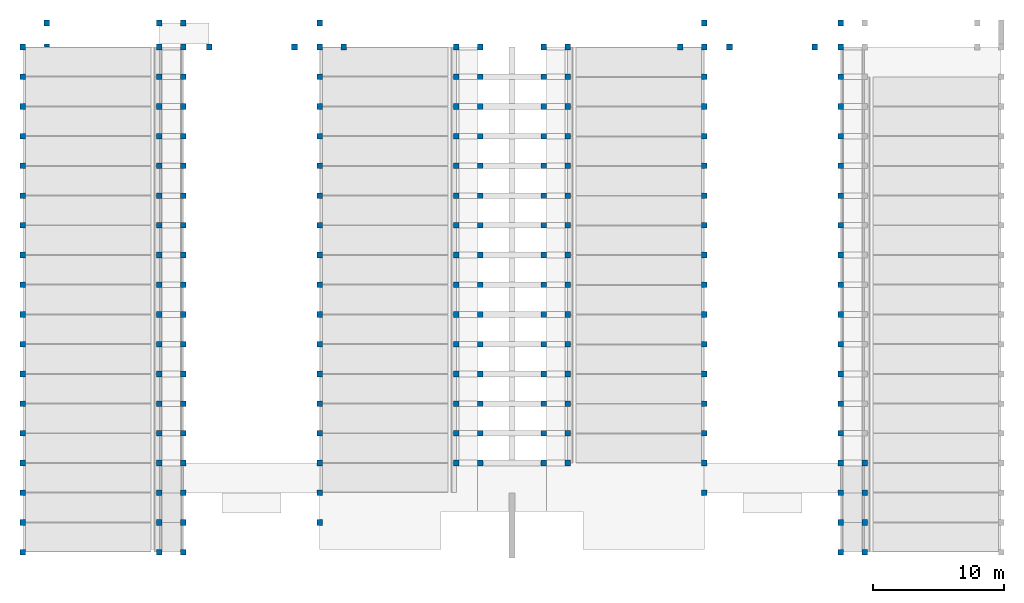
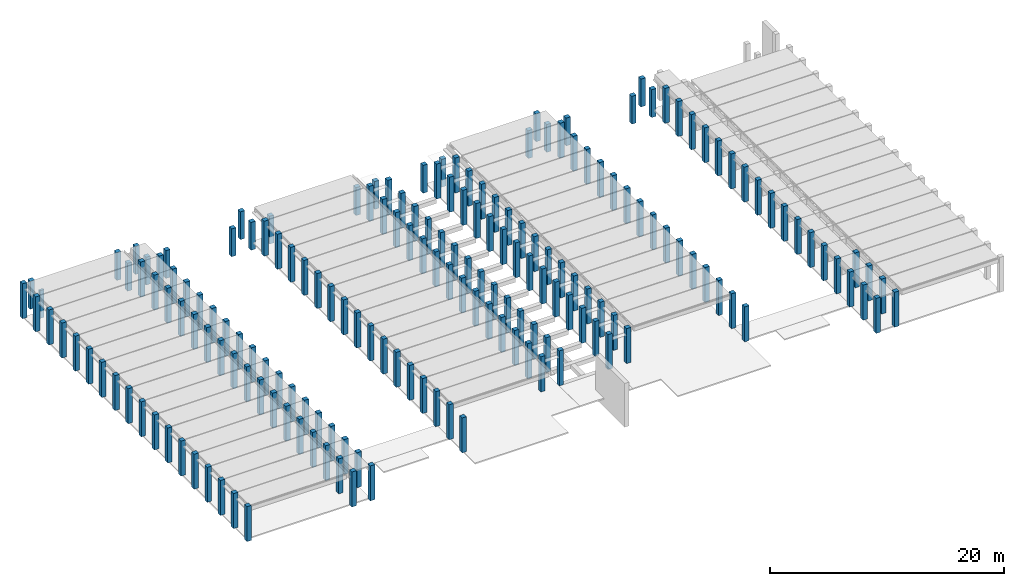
# One storey, part 1 of 18: 182 columns.
"""IFC2X3 building model written with IfcOpenShell, lengths in millimetres."""

from ifc_helpers import new_model, entity, si_unit, converted_unit, derived_unit, direction, frame, origin, origin_2d_with_axis, place, context, subcontext, project, spatial, polyline, rectangle, outline, extrude, source, transform, mapped, material, type_object, type_shapes, element, save


model = new_model("IFC2X3")

# Units and contexts
model_context = context("Model", 3, precision=0.01, world=origin(), true_north=direction((6.12303176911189e-17, 1.0)))
body_context = subcontext(model_context, "Body", "Model", "MODEL_VIEW")
ifc_project = project(units=[si_unit("LENGTHUNIT", "METRE", prefix="MILLI"), si_unit("AREAUNIT", "SQUARE_METRE"), si_unit("VOLUMEUNIT", "CUBIC_METRE"), converted_unit("PLANEANGLEUNIT", "DEGREE", entity("IfcRatioMeasure", 0.0174532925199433), si_unit("PLANEANGLEUNIT", "RADIAN"), dimensions=[0, 0, 0, 0, 0, 0, 0]), si_unit("MASSUNIT", "GRAM", prefix="KILO"), derived_unit("MASSDENSITYUNIT", [(si_unit("MASSUNIT", "GRAM", prefix="KILO"), 1), (si_unit("LENGTHUNIT", "METRE"), -3)]), derived_unit("MOMENTOFINERTIAUNIT", [(si_unit("LENGTHUNIT", "METRE"), 4)]), si_unit("TIMEUNIT", "SECOND"), si_unit("FREQUENCYUNIT", "HERTZ"), si_unit("THERMODYNAMICTEMPERATUREUNIT", "DEGREE_CELSIUS"), derived_unit("THERMALTRANSMITTANCEUNIT", [(si_unit("MASSUNIT", "GRAM", prefix="KILO"), 1), (si_unit("THERMODYNAMICTEMPERATUREUNIT", "KELVIN"), -1), (si_unit("TIMEUNIT", "SECOND"), -3)]), derived_unit("VOLUMETRICFLOWRATEUNIT", [(si_unit("LENGTHUNIT", "METRE"), 3), (si_unit("TIMEUNIT", "SECOND"), -1)]), si_unit("ELECTRICCURRENTUNIT", "AMPERE"), si_unit("ELECTRICVOLTAGEUNIT", "VOLT"), si_unit("POWERUNIT", "WATT"), si_unit("FORCEUNIT", "NEWTON", prefix="KILO"), si_unit("ILLUMINANCEUNIT", "LUX"), si_unit("LUMINOUSFLUXUNIT", "LUMEN"), si_unit("LUMINOUSINTENSITYUNIT", "CANDELA"), derived_unit("USERDEFINED", [(si_unit("MASSUNIT", "GRAM", prefix="KILO"), -1), (si_unit("LENGTHUNIT", "METRE"), -2), (si_unit("TIMEUNIT", "SECOND"), 3), (si_unit("LUMINOUSFLUXUNIT", "LUMEN"), 1)]), derived_unit("LINEARVELOCITYUNIT", [(si_unit("LENGTHUNIT", "METRE"), 1), (si_unit("TIMEUNIT", "SECOND"), -1)]), si_unit("PRESSUREUNIT", "PASCAL"), derived_unit("USERDEFINED", [(si_unit("LENGTHUNIT", "METRE"), -2), (si_unit("MASSUNIT", "GRAM", prefix="KILO"), 1), (si_unit("TIMEUNIT", "SECOND"), -2)]), derived_unit("LINEARFORCEUNIT", [(si_unit("MASSUNIT", "GRAM", prefix="KILO"), 1), (si_unit("LENGTHUNIT", "METRE"), 1), (si_unit("TIMEUNIT", "SECOND"), -2), (si_unit("LENGTHUNIT", "METRE"), -1)]), derived_unit("PLANARFORCEUNIT", [(si_unit("MASSUNIT", "GRAM", prefix="KILO"), 1), (si_unit("LENGTHUNIT", "METRE"), 1), (si_unit("TIMEUNIT", "SECOND"), -2), (si_unit("LENGTHUNIT", "METRE"), -2)])], contexts=[model_context])

# Site, building, storey
site_placement = place(None, frame((10627.5135316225, 21939.0796949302, 0.0)))
site = spatial("IfcSite", under=ifc_project, at=site_placement, Name="Default", CompositionType="ELEMENT")
building_placement = place(site_placement, origin())
building = spatial("IfcBuilding", under=site, at=building_placement, CompositionType="ELEMENT")
storey_placement = place(building_placement, frame((0.0, 0.0, 3660.0)))
storey = spatial("IfcBuildingStorey", under=building, at=storey_placement, Name="R+1", CompositionType="ELEMENT", Elevation=3660.0)

# Columns
ifc_material_1 = material(Name="Concrete, Precast Smooth, Light Grey")
column_type_1 = type_object("IfcColumnType", Name="M_Precast-Square Column:430x430", PredefinedType="COLUMN", material=ifc_material_1)
shared_shape_1 = source(origin(), body_context, "Body", "SweptSolid", [
    extrude(rectangle(XDim=430.0, YDim=430.0, at=origin_2d_with_axis()), frame((0.0, 0.0, 2910.0), z_axis=(0.0, 0.0, 1.0), x_axis=(0.0, -1.0, 0.0)), (0.0, 0.0, 1.0), 2910.0),
])
type_shapes(column_type_1, [shared_shape_1])
column_1_placement = place(storey_placement, frame((-247.513531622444, 16480.9203050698, -3660.0)))
element("IfcColumn", 1, at=column_1_placement, inside=storey, type_object=column_type_1, material=ifc_material_1, Name="M_Precast-Square Column:430x430", ObjectType="M_Precast-Square Column:430x430", context=body_context, shape_type="MappedRepresentation", body=[
    mapped(shared_shape_1, transform((0.0, 0.0, 0.0), scale=1.0)),
])
for number, where, z_axis, x_axis, name in (
    (2, (-247.513531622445, 18310.9203050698, -3660.0), (0.0, 0.0, 1.0), (-1.0, 0.0, 0.0), "M_Precast-Square Column:430x430"),
    (3, (1582.48646837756, 18310.9203050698, -3660.0), (0.0, 0.0, 1.0), (-1.0, 0.0, 0.0), "M_Precast-Square Column:430x430"),
    (4, (1582.48646837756, 16480.9203050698, -3660.0), (0.0, 0.0, 1.0), (-1.0, 0.0, 0.0), "M_Precast-Square Column:430x430"),
    (5, (3545.48646837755, 16480.9203050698, -3660.0), (0.0, 0.0, 1.0), (-1.0, 0.0, 0.0), "M_Precast-Square Column:430x430"),
    (6, (11962.4864683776, 16480.9203050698, -3660.0), (0.0, 0.0, 1.0), (-1.0, 0.0, 0.0), "M_Precast-Square Column:430x430"),
    (7, (11962.4864683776, 18310.9203050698, -3660.0), (0.0, 0.0, 1.0), (-1.0, 0.0, 0.0), "M_Precast-Square Column:430x430"),
    (8, (-8797.51353162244, 18310.9203050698, -3660.0), (0.0, 0.0, 1.0), (-1.0, 0.0, 0.0), "M_Precast-Square Column:430x430"),
    (9, (22342.4864683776, 16480.9203050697, -3660.0), (0.0, 0.0, 1.0), (-1.0, 0.0, 0.0), "M_Precast-Square Column:430x430"),
    (10, (24172.4864683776, 16480.9203050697, -3660.0), (0.0, 0.0, 1.0), (-1.0, 0.0, 0.0), "M_Precast-Square Column:430x430"),
    (11, (43117.3311933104, 16480.9203050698, -3660.0), (0.0, 0.0, 1.0), (-1.0, 0.0, 0.0), "M_Precast-Square Column:430x430"),
    (12, (39362.4864683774, 16480.9203050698, -3660.0), (0.0, 0.0, 1.0), (-1.0, 0.0, 0.0), "M_Precast-Square Column:430x430"),
):
    element("IfcColumn", number, at=place(storey_placement, frame(where, z_axis=z_axis, x_axis=x_axis)), inside=storey, type_object=column_type_1, material=ifc_material_1, Name=name, ObjectType="M_Precast-Square Column:430x430", context=body_context, shape_type="MappedRepresentation", body=[
        mapped(shared_shape_1, transform((0.0, 0.0, 0.0), scale=1.0)),
    ])
ifc_material_2 = material(Name="Concrete - Precast Concrete - 35 MPa")
column_type_2 = type_object("IfcColumnType", Name="M_Precast-Rectangular Column:430X200", PredefinedType="COLUMN", material=ifc_material_2)
shared_shape_2 = source(origin(), body_context, "Body", "SweptSolid", [
    extrude(outline(polyline([(-75.0, -215.0), (75.0, -215.0), (100.0, -190.0), (100.0, 190.0), (75.0, 215.0), (-75.0, 215.0), (-100.0, 190.0), (-100.0, -190.0), (-75.0, -215.0)])), frame((0.0, 0.0, 2910.0), z_axis=(0.0, 0.0, 1.0), x_axis=(0.0, -1.0, 0.0)), (0.0, 0.0, 1.0), 2910.0),
])
type_shapes(column_type_2, [shared_shape_2])
column_2_placement = place(storey_placement, frame((-8797.51353162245, 16595.9203050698, -3660.0), z_axis=(0.0, 0.0, 1.0), x_axis=(-1.0, 0.0, 0.0)))
element("IfcColumn", 13, at=column_2_placement, inside=storey, type_object=column_type_2, material=ifc_material_2, Name="M_Precast-Rectangular Column:430X200", ObjectType="M_Precast-Rectangular Column:430X200", context=body_context, shape_type="MappedRepresentation", body=[
    mapped(shared_shape_2, transform((0.0, 0.0, 0.0), scale=1.0)),
])
column_type_3 = type_object("IfcColumnType", Name="M_Precast-Square Column:430x430", PredefinedType="COLUMN", material=ifc_material_1)
shared_shape_3 = source(origin(), body_context, "Body", "SweptSolid", [
    extrude(rectangle(XDim=430.0, YDim=430.0, at=origin_2d_with_axis()), frame((0.0, 0.0, 2910.0), z_axis=(0.0, 0.0, 1.0), x_axis=(0.0, -1.0, 0.0)), (0.0, 0.0, 1.0), 2910.0),
])
type_shapes(column_type_3, [shared_shape_3])
for number, where, name in (
    (14, (10037.6417434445, 16480.9203050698, -3660.0), "M_Precast-Square Column:430x430"),
    (15, (13792.4864683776, 16480.9203050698, -3660.0), "M_Precast-Square Column:430x430"),
    (16, (51572.4864683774, 18310.9203050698, -3660.0), "M_Precast-Square Column:430x430"),
    (17, (51572.4864683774, 16480.9203050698, -3660.0), "M_Precast-Square Column:430x430"),
    (18, (49609.4864683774, 16480.9203050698, -3660.0), "M_Precast-Square Column:430x430"),
    (19, (41192.4864683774, 16480.9203050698, -3660.0), "M_Precast-Square Column:430x430"),
    (20, (41192.4864683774, 18310.9203050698, -3660.0), "M_Precast-Square Column:430x430"),
    (21, (30812.4864683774, 16480.9203050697, -3660.0), "M_Precast-Square Column:430x430"),
    (22, (28982.4864683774, 16480.9203050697, -3660.0), "M_Precast-Square Column:430x430"),
):
    element("IfcColumn", number, at=place(storey_placement, frame(where)), inside=storey, type_object=column_type_3, material=ifc_material_1, Name=name, ObjectType="M_Precast-Square Column:430x430", context=body_context, shape_type="MappedRepresentation", body=[
        mapped(shared_shape_3, transform((0.0, 0.0, 0.0), scale=1.0)),
    ])
column_type_4 = type_object("IfcColumnType", Name="M_Precast-Square Column:430x430 Main floor", PredefinedType="COLUMN", material=ifc_material_1)
shared_shape_4 = source(origin(), body_context, "Body", "SweptSolid", [
    extrude(rectangle(XDim=430.0, YDim=430.0, at=origin_2d_with_axis()), frame((0.0, 0.0, 3660.0), z_axis=(0.0, 0.0, 1.0), x_axis=(0.0, -1.0, 0.0)), (0.0, 0.0, 1.0), 3660.0),
])
type_shapes(column_type_4, [shared_shape_4])
for number, where, z_axis, x_axis, name in (
    (23, (-10627.5135316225, 14220.9203050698, -3660.0), (0.0, 0.0, 1.0), (-1.0, 0.0, 0.0), "M_Precast-Square Column:430x430 Main floor"),
    (24, (-10627.5135316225, 11960.9203050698, -3660.0), (0.0, 0.0, 1.0), (-1.0, 0.0, 0.0), "M_Precast-Square Column:430x430 Main floor"),
    (25, (-247.51353162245, 14220.9203050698, -3660.0), (0.0, 0.0, 1.0), (-1.0, 0.0, 0.0), "M_Precast-Square Column:430x430 Main floor"),
    (26, (-247.513531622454, 11960.9203050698, -3660.0), (0.0, 0.0, 1.0), (-1.0, 0.0, 0.0), "M_Precast-Square Column:430x430 Main floor"),
    (27, (1582.48646837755, 14220.9203050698, -3660.0), (0.0, 0.0, 1.0), (-1.0, 0.0, 0.0), "M_Precast-Square Column:430x430 Main floor"),
    (28, (1582.48646837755, 11960.9203050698, -3660.0), (0.0, 0.0, 1.0), (-1.0, 0.0, 0.0), "M_Precast-Square Column:430x430 Main floor"),
    (29, (11962.4864683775, 14220.9203050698, -3660.0), (0.0, 0.0, 1.0), (-1.0, 0.0, 0.0), "M_Precast-Square Column:430x430 Main floor"),
    (30, (11962.4864683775, 11960.9203050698, -3660.0), (0.0, 0.0, 1.0), (-1.0, 0.0, 0.0), "M_Precast-Square Column:430x430 Main floor"),
    (31, (22342.4864683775, 14220.9203050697, -3660.0), (0.0, 0.0, 1.0), (-1.0, 0.0, 0.0), "M_Precast-Square Column:430x430 Main floor"),
    (32, (22342.4864683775, 11960.9203050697, -3660.0), (0.0, 0.0, 1.0), (-1.0, 0.0, 0.0), "M_Precast-Square Column:430x430 Main floor"),
    (33, (24172.4864683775, 14220.9203050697, -3660.0), (0.0, 0.0, 1.0), (-1.0, 0.0, 0.0), "M_Precast-Square Column:430x430 Main floor"),
    (34, (24172.4864683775, 11960.9203050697, -3660.0), (0.0, 0.0, 1.0), (-1.0, 0.0, 0.0), "M_Precast-Square Column:430x430 Main floor"),
    (35, (-247.513531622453, 9700.92030506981, -3660.0), (0.0, 0.0, 1.0), (-1.0, 0.0, 0.0), "M_Precast-Square Column:430x430 Main floor"),
    (36, (1582.48646837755, 9700.9203050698, -3660.0), (0.0, 0.0, 1.0), (-1.0, 0.0, 0.0), "M_Precast-Square Column:430x430 Main floor"),
    (37, (-10627.5135316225, 9700.92030506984, -3660.0), (0.0, 0.0, 1.0), (-1.0, 0.0, 0.0), "M_Precast-Square Column:430x430 Main floor"),
    (38, (11962.4864683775, 9700.92030506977, -3660.0), (0.0, 0.0, 1.0), (-1.0, 0.0, 0.0), "M_Precast-Square Column:430x430 Main floor"),
    (39, (22342.4864683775, 9700.92030506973, -3660.0), (0.0, 0.0, 1.0), (-1.0, 0.0, 0.0), "M_Precast-Square Column:430x430 Main floor"),
    (40, (24172.4864683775, 9700.92030506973, -3660.0), (0.0, 0.0, 1.0), (-1.0, 0.0, 0.0), "M_Precast-Square Column:430x430 Main floor"),
    (41, (-247.513531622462, 7440.92030506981, -3660.0), (0.0, 0.0, 1.0), (-1.0, 0.0, 0.0), "M_Precast-Square Column:430x430 Main floor"),
    (42, (1582.48646837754, 7440.9203050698, -3660.0), (0.0, 0.0, 1.0), (-1.0, 0.0, 0.0), "M_Precast-Square Column:430x430 Main floor"),
    (43, (-10627.5135316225, 7440.92030506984, -3660.0), (0.0, 0.0, 1.0), (-1.0, 0.0, 0.0), "M_Precast-Square Column:430x430 Main floor"),
    (44, (11962.4864683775, 7440.92030506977, -3660.0), (0.0, 0.0, 1.0), (-1.0, 0.0, 0.0), "M_Precast-Square Column:430x430 Main floor"),
    (45, (22342.4864683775, 7440.92030506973, -3660.0), (0.0, 0.0, 1.0), (-1.0, 0.0, 0.0), "M_Precast-Square Column:430x430 Main floor"),
    (46, (24172.4864683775, 7440.92030506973, -3660.0), (0.0, 0.0, 1.0), (-1.0, 0.0, 0.0), "M_Precast-Square Column:430x430 Main floor"),
    (47, (-247.513531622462, 5180.92030506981, -3660.0), (0.0, 0.0, 1.0), (-1.0, 0.0, 0.0), "M_Precast-Square Column:430x430 Main floor"),
    (48, (1582.48646837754, 5180.9203050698, -3660.0), (0.0, 0.0, 1.0), (-1.0, 0.0, 0.0), "M_Precast-Square Column:430x430 Main floor"),
    (49, (-10627.5135316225, 5180.92030506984, -3660.0), (0.0, 0.0, 1.0), (-1.0, 0.0, 0.0), "M_Precast-Square Column:430x430 Main floor"),
    (50, (11962.4864683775, 5180.92030506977, -3660.0), (0.0, 0.0, 1.0), (-1.0, 0.0, 0.0), "M_Precast-Square Column:430x430 Main floor"),
    (51, (22342.4864683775, 5180.92030506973, -3660.0), (0.0, 0.0, 1.0), (-1.0, 0.0, 0.0), "M_Precast-Square Column:430x430 Main floor"),
    (52, (24172.4864683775, 5180.92030506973, -3660.0), (0.0, 0.0, 1.0), (-1.0, 0.0, 0.0), "M_Precast-Square Column:430x430 Main floor"),
    (53, (-247.513531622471, 2920.92030506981, -3660.0), (0.0, 0.0, 1.0), (-1.0, 0.0, 0.0), "M_Precast-Square Column:430x430 Main floor"),
    (54, (1582.48646837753, 2920.9203050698, -3660.0), (0.0, 0.0, 1.0), (-1.0, 0.0, 0.0), "M_Precast-Square Column:430x430 Main floor"),
    (55, (-10627.5135316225, 2920.92030506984, -3660.0), (0.0, 0.0, 1.0), (-1.0, 0.0, 0.0), "M_Precast-Square Column:430x430 Main floor"),
    (56, (11962.4864683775, 2920.92030506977, -3660.0), (0.0, 0.0, 1.0), (-1.0, 0.0, 0.0), "M_Precast-Square Column:430x430 Main floor"),
    (57, (22342.4864683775, 2920.92030506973, -3660.0), (0.0, 0.0, 1.0), (-1.0, 0.0, 0.0), "M_Precast-Square Column:430x430 Main floor"),
    (58, (24172.4864683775, 2920.92030506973, -3660.0), (0.0, 0.0, 1.0), (-1.0, 0.0, 0.0), "M_Precast-Square Column:430x430 Main floor"),
    (59, (-247.513531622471, 660.920305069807, -3660.0), (0.0, 0.0, 1.0), (-1.0, 0.0, 0.0), "M_Precast-Square Column:430x430 Main floor"),
    (60, (1582.48646837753, 660.920305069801, -3660.0), (0.0, 0.0, 1.0), (-1.0, 0.0, 0.0), "M_Precast-Square Column:430x430 Main floor"),
    (61, (-10627.5135316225, 660.92030506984, -3660.0), (0.0, 0.0, 1.0), (-1.0, 0.0, 0.0), "M_Precast-Square Column:430x430 Main floor"),
    (62, (11962.4864683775, 660.920305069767, -3660.0), (0.0, 0.0, 1.0), (-1.0, 0.0, 0.0), "M_Precast-Square Column:430x430 Main floor"),
    (63, (22342.4864683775, 660.920305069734, -3660.0), (0.0, 0.0, 1.0), (-1.0, 0.0, 0.0), "M_Precast-Square Column:430x430 Main floor"),
    (64, (24172.4864683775, 660.920305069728, -3660.0), (0.0, 0.0, 1.0), (-1.0, 0.0, 0.0), "M_Precast-Square Column:430x430 Main floor"),
    (65, (-247.513531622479, -1599.07969493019, -3660.0), (0.0, 0.0, 1.0), (-1.0, 0.0, 0.0), "M_Precast-Square Column:430x430 Main floor"),
    (66, (1582.48646837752, -1599.0796949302, -3660.0), (0.0, 0.0, 1.0), (-1.0, 0.0, 0.0), "M_Precast-Square Column:430x430 Main floor"),
    (67, (-10627.5135316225, -1599.07969493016, -3660.0), (0.0, 0.0, 1.0), (-1.0, 0.0, 0.0), "M_Precast-Square Column:430x430 Main floor"),
    (68, (11962.4864683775, -1599.07969493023, -3660.0), (0.0, 0.0, 1.0), (-1.0, 0.0, 0.0), "M_Precast-Square Column:430x430 Main floor"),
    (69, (22342.4864683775, -1599.07969493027, -3660.0), (0.0, 0.0, 1.0), (-1.0, 0.0, 0.0), "M_Precast-Square Column:430x430 Main floor"),
    (70, (24172.4864683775, -1599.07969493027, -3660.0), (0.0, 0.0, 1.0), (-1.0, 0.0, 0.0), "M_Precast-Square Column:430x430 Main floor"),
    (71, (-247.513531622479, -3859.07969493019, -3660.0), (0.0, 0.0, 1.0), (-1.0, 0.0, 0.0), "M_Precast-Square Column:430x430 Main floor"),
    (72, (1582.48646837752, -3859.0796949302, -3660.0), (0.0, 0.0, 1.0), (-1.0, 0.0, 0.0), "M_Precast-Square Column:430x430 Main floor"),
    (73, (-10627.5135316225, -3859.07969493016, -3660.0), (0.0, 0.0, 1.0), (-1.0, 0.0, 0.0), "M_Precast-Square Column:430x430 Main floor"),
    (74, (11962.4864683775, -3859.07969493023, -3660.0), (0.0, 0.0, 1.0), (-1.0, 0.0, 0.0), "M_Precast-Square Column:430x430 Main floor"),
    (75, (22342.4864683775, -3859.07969493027, -3660.0), (0.0, 0.0, 1.0), (-1.0, 0.0, 0.0), "M_Precast-Square Column:430x430 Main floor"),
    (76, (24172.4864683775, -3859.07969493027, -3660.0), (0.0, 0.0, 1.0), (-1.0, 0.0, 0.0), "M_Precast-Square Column:430x430 Main floor"),
    (77, (-247.513531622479, -6119.07969493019, -3660.0), (0.0, 0.0, 1.0), (-1.0, 0.0, 0.0), "M_Precast-Square Column:430x430 Main floor"),
    (78, (1582.48646837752, -6119.0796949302, -3660.0), (0.0, 0.0, 1.0), (-1.0, 0.0, 0.0), "M_Precast-Square Column:430x430 Main floor"),
    (79, (-10627.5135316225, -6119.07969493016, -3660.0), (0.0, 0.0, 1.0), (-1.0, 0.0, 0.0), "M_Precast-Square Column:430x430 Main floor"),
    (80, (11962.4864683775, -6119.07969493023, -3660.0), (0.0, 0.0, 1.0), (-1.0, 0.0, 0.0), "M_Precast-Square Column:430x430 Main floor"),
    (81, (22342.4864683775, -6119.07969493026, -3660.0), (0.0, 0.0, 1.0), (-1.0, 0.0, 0.0), "M_Precast-Square Column:430x430 Main floor"),
    (82, (24172.4864683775, -6119.07969493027, -3660.0), (0.0, 0.0, 1.0), (-1.0, 0.0, 0.0), "M_Precast-Square Column:430x430 Main floor"),
    (83, (-247.513531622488, -8379.07969493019, -3660.0), (0.0, 0.0, 1.0), (-1.0, 0.0, 0.0), "M_Precast-Square Column:430x430 Main floor"),
    (84, (1582.48646837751, -8379.0796949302, -3660.0), (0.0, 0.0, 1.0), (-1.0, 0.0, 0.0), "M_Precast-Square Column:430x430 Main floor"),
    (85, (-10627.5135316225, -8379.07969493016, -3660.0), (0.0, 0.0, 1.0), (-1.0, 0.0, 0.0), "M_Precast-Square Column:430x430 Main floor"),
    (86, (11962.4864683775, -8379.07969493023, -3660.0), (0.0, 0.0, 1.0), (-1.0, 0.0, 0.0), "M_Precast-Square Column:430x430 Main floor"),
    (87, (22342.4864683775, -8379.07969493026, -3660.0), (0.0, 0.0, 1.0), (-1.0, 0.0, 0.0), "M_Precast-Square Column:430x430 Main floor"),
    (88, (24172.4864683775, -8379.07969493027, -3660.0), (0.0, 0.0, 1.0), (-1.0, 0.0, 0.0), "M_Precast-Square Column:430x430 Main floor"),
    (89, (-247.513531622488, -10639.0796949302, -3660.0), (0.0, 0.0, 1.0), (-1.0, 0.0, 0.0), "M_Precast-Square Column:430x430 Main floor"),
    (90, (1582.48646837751, -10639.0796949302, -3660.0), (0.0, 0.0, 1.0), (-1.0, 0.0, 0.0), "M_Precast-Square Column:430x430 Main floor"),
    (91, (-10627.5135316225, -10639.0796949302, -3660.0), (0.0, 0.0, 1.0), (-1.0, 0.0, 0.0), "M_Precast-Square Column:430x430 Main floor"),
    (92, (11962.4864683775, -10639.0796949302, -3660.0), (0.0, 0.0, 1.0), (-1.0, 0.0, 0.0), "M_Precast-Square Column:430x430 Main floor"),
    (93, (22342.4864683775, -10639.0796949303, -3660.0), (0.0, 0.0, 1.0), (-1.0, 0.0, 0.0), "M_Precast-Square Column:430x430 Main floor"),
    (94, (24172.4864683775, -10639.0796949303, -3660.0), (0.0, 0.0, 1.0), (-1.0, 0.0, 0.0), "M_Precast-Square Column:430x430 Main floor"),
    (95, (-247.513531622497, -12899.0796949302, -3660.0), (0.0, 0.0, 1.0), (-1.0, 0.0, 0.0), "M_Precast-Square Column:430x430 Main floor"),
    (96, (1582.4864683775, -12899.0796949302, -3660.0), (0.0, 0.0, 1.0), (-1.0, 0.0, 0.0), "M_Precast-Square Column:430x430 Main floor"),
    (97, (-10627.5135316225, -12899.0796949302, -3660.0), (0.0, 0.0, 1.0), (-1.0, 0.0, 0.0), "M_Precast-Square Column:430x430 Main floor"),
    (98, (11962.4864683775, -12899.0796949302, -3660.0), (0.0, 0.0, 1.0), (-1.0, 0.0, 0.0), "M_Precast-Square Column:430x430 Main floor"),
    (99, (22342.4864683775, -12899.0796949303, -3660.0), (0.0, 0.0, 1.0), (-1.0, 0.0, 0.0), "M_Precast-Square Column:430x430 Main floor"),
    (100, (24172.4864683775, -12899.0796949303, -3660.0), (0.0, 0.0, 1.0), (-1.0, 0.0, 0.0), "M_Precast-Square Column:430x430 Main floor"),
    (101, (-247.513531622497, -15159.0796949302, -3660.0), (0.0, 0.0, 1.0), (-1.0, 0.0, 0.0), "M_Precast-Square Column:430x430 Main floor"),
    (102, (1582.4864683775, -15159.0796949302, -3660.0), (0.0, 0.0, 1.0), (-1.0, 0.0, 0.0), "M_Precast-Square Column:430x430 Main floor"),
    (103, (-10627.5135316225, -15159.0796949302, -3660.0), (0.0, 0.0, 1.0), (-1.0, 0.0, 0.0), "M_Precast-Square Column:430x430 Main floor"),
    (104, (11962.4864683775, -15159.0796949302, -3660.0), (0.0, 0.0, 1.0), (-1.0, 0.0, 0.0), "M_Precast-Square Column:430x430 Main floor"),
    (105, (22342.4864683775, -15159.0796949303, -3660.0), (0.0, 0.0, 1.0), (-1.0, 0.0, 0.0), "M_Precast-Square Column:430x430 Main floor"),
    (106, (24172.4864683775, -15159.0796949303, -3660.0), (0.0, 0.0, 1.0), (-1.0, 0.0, 0.0), "M_Precast-Square Column:430x430 Main floor"),
    (107, (-247.513531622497, -17419.0796949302, -3660.0), (0.0, 0.0, 1.0), (-1.0, 0.0, 0.0), "M_Precast-Square Column:430x430 Main floor"),
    (108, (1582.4864683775, -17419.0796949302, -3660.0), (0.0, 0.0, 1.0), (-1.0, 0.0, 0.0), "M_Precast-Square Column:430x430 Main floor"),
    (109, (-10627.5135316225, -17419.0796949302, -3660.0), (0.0, 0.0, 1.0), (-1.0, 0.0, 0.0), "M_Precast-Square Column:430x430 Main floor"),
    (110, (11962.4864683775, -17419.0796949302, -3660.0), (0.0, 0.0, 1.0), (-1.0, 0.0, 0.0), "M_Precast-Square Column:430x430 Main floor"),
    (111, (-247.513531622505, -19679.0796949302, -3660.0), (0.0, 0.0, 1.0), (-1.0, 0.0, 0.0), "M_Precast-Square Column:430x430 Main floor"),
    (112, (1582.48646837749, -19679.0796949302, -3660.0), (0.0, 0.0, 1.0), (-1.0, 0.0, 0.0), "M_Precast-Square Column:430x430 Main floor"),
    (113, (-10627.5135316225, -19679.0796949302, -3660.0), (0.0, 0.0, 1.0), (-1.0, 0.0, 0.0), "M_Precast-Square Column:430x430 Main floor"),
    (114, (11962.4864683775, -19679.0796949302, -3660.0), (0.0, 0.0, 1.0), (-1.0, 0.0, 0.0), "M_Precast-Square Column:430x430 Main floor"),
    (115, (-247.513531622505, -21939.0796949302, -3660.0), (0.0, 0.0, 1.0), (-1.0, 0.0, 0.0), "M_Precast-Square Column:430x430 Main floor"),
    (116, (1582.48646837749, -21939.0796949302, -3660.0), (0.0, 0.0, 1.0), (-1.0, 0.0, 0.0), "M_Precast-Square Column:430x430 Main floor"),
    (117, (-10627.5135316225, -21939.0796949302, -3660.0), (0.0, 0.0, 1.0), (-1.0, 0.0, 0.0), "M_Precast-Square Column:430x430 Main floor"),
):
    element("IfcColumn", number, at=place(storey_placement, frame(where, z_axis=z_axis, x_axis=x_axis)), inside=storey, type_object=column_type_4, material=ifc_material_1, Name=name, ObjectType="M_Precast-Square Column:430x430 Main floor", context=body_context, shape_type="MappedRepresentation", body=[
        mapped(shared_shape_4, transform((0.0, 0.0, 0.0), scale=1.0)),
    ])
column_type_5 = type_object("IfcColumnType", Name="M_Precast-Square Column:430x430 Main floor", PredefinedType="COLUMN", material=ifc_material_1)
shared_shape_5 = source(origin(), body_context, "Body", "SweptSolid", [
    extrude(rectangle(XDim=430.0, YDim=430.0, at=origin_2d_with_axis()), frame((0.0, 0.0, 3660.0), z_axis=(0.0, 0.0, 1.0), x_axis=(0.0, -1.0, 0.0)), (0.0, 0.0, 1.0), 3660.0),
])
type_shapes(column_type_5, [shared_shape_5])
for number, where, name in (
    (118, (51572.4864683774, 14220.9203050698, -3660.0), "M_Precast-Square Column:430x430 Main floor"),
    (119, (51572.4864683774, 11960.9203050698, -3660.0), "M_Precast-Square Column:430x430 Main floor"),
    (120, (41192.4864683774, 14220.9203050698, -3660.0), "M_Precast-Square Column:430x430 Main floor"),
    (121, (41192.4864683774, 11960.9203050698, -3660.0), "M_Precast-Square Column:430x430 Main floor"),
    (122, (30812.4864683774, 14220.9203050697, -3660.0), "M_Precast-Square Column:430x430 Main floor"),
    (123, (30812.4864683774, 11960.9203050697, -3660.0), "M_Precast-Square Column:430x430 Main floor"),
    (124, (28982.4864683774, 14220.9203050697, -3660.0), "M_Precast-Square Column:430x430 Main floor"),
    (125, (28982.4864683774, 11960.9203050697, -3660.0), "M_Precast-Square Column:430x430 Main floor"),
    (126, (51572.4864683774, 9700.9203050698, -3660.0), "M_Precast-Square Column:430x430 Main floor"),
    (127, (41192.4864683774, 9700.92030506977, -3660.0), "M_Precast-Square Column:430x430 Main floor"),
    (128, (30812.4864683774, 9700.92030506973, -3660.0), "M_Precast-Square Column:430x430 Main floor"),
    (129, (28982.4864683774, 9700.92030506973, -3660.0), "M_Precast-Square Column:430x430 Main floor"),
    (130, (51572.4864683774, 7440.9203050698, -3660.0), "M_Precast-Square Column:430x430 Main floor"),
    (131, (41192.4864683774, 7440.92030506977, -3660.0), "M_Precast-Square Column:430x430 Main floor"),
    (132, (30812.4864683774, 7440.92030506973, -3660.0), "M_Precast-Square Column:430x430 Main floor"),
    (133, (28982.4864683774, 7440.92030506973, -3660.0), "M_Precast-Square Column:430x430 Main floor"),
    (134, (51572.4864683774, 5180.9203050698, -3660.0), "M_Precast-Square Column:430x430 Main floor"),
    (135, (41192.4864683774, 5180.92030506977, -3660.0), "M_Precast-Square Column:430x430 Main floor"),
    (136, (30812.4864683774, 5180.92030506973, -3660.0), "M_Precast-Square Column:430x430 Main floor"),
    (137, (28982.4864683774, 5180.92030506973, -3660.0), "M_Precast-Square Column:430x430 Main floor"),
    (138, (51572.4864683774, 2920.9203050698, -3660.0), "M_Precast-Square Column:430x430 Main floor"),
    (139, (41192.4864683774, 2920.92030506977, -3660.0), "M_Precast-Square Column:430x430 Main floor"),
    (140, (30812.4864683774, 2920.92030506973, -3660.0), "M_Precast-Square Column:430x430 Main floor"),
    (141, (28982.4864683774, 2920.92030506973, -3660.0), "M_Precast-Square Column:430x430 Main floor"),
    (142, (51572.4864683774, 660.920305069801, -3660.0), "M_Precast-Square Column:430x430 Main floor"),
    (143, (41192.4864683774, 660.920305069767, -3660.0), "M_Precast-Square Column:430x430 Main floor"),
    (144, (30812.4864683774, 660.920305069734, -3660.0), "M_Precast-Square Column:430x430 Main floor"),
    (145, (28982.4864683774, 660.920305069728, -3660.0), "M_Precast-Square Column:430x430 Main floor"),
    (146, (51572.4864683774, -1599.0796949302, -3660.0), "M_Precast-Square Column:430x430 Main floor"),
    (147, (41192.4864683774, -1599.07969493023, -3660.0), "M_Precast-Square Column:430x430 Main floor"),
    (148, (30812.4864683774, -1599.07969493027, -3660.0), "M_Precast-Square Column:430x430 Main floor"),
    (149, (28982.4864683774, -1599.07969493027, -3660.0), "M_Precast-Square Column:430x430 Main floor"),
    (150, (51572.4864683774, -3859.0796949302, -3660.0), "M_Precast-Square Column:430x430 Main floor"),
    (151, (41192.4864683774, -3859.07969493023, -3660.0), "M_Precast-Square Column:430x430 Main floor"),
    (152, (30812.4864683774, -3859.07969493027, -3660.0), "M_Precast-Square Column:430x430 Main floor"),
    (153, (28982.4864683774, -3859.07969493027, -3660.0), "M_Precast-Square Column:430x430 Main floor"),
    (154, (51572.4864683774, -6119.0796949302, -3660.0), "M_Precast-Square Column:430x430 Main floor"),
    (155, (41192.4864683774, -6119.07969493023, -3660.0), "M_Precast-Square Column:430x430 Main floor"),
    (156, (30812.4864683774, -6119.07969493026, -3660.0), "M_Precast-Square Column:430x430 Main floor"),
    (157, (28982.4864683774, -6119.07969493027, -3660.0), "M_Precast-Square Column:430x430 Main floor"),
    (158, (51572.4864683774, -8379.0796949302, -3660.0), "M_Precast-Square Column:430x430 Main floor"),
    (159, (41192.4864683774, -8379.07969493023, -3660.0), "M_Precast-Square Column:430x430 Main floor"),
    (160, (30812.4864683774, -8379.07969493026, -3660.0), "M_Precast-Square Column:430x430 Main floor"),
    (161, (28982.4864683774, -8379.07969493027, -3660.0), "M_Precast-Square Column:430x430 Main floor"),
    (162, (51572.4864683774, -10639.0796949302, -3660.0), "M_Precast-Square Column:430x430 Main floor"),
    (163, (41192.4864683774, -10639.0796949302, -3660.0), "M_Precast-Square Column:430x430 Main floor"),
    (164, (30812.4864683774, -10639.0796949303, -3660.0), "M_Precast-Square Column:430x430 Main floor"),
    (165, (28982.4864683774, -10639.0796949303, -3660.0), "M_Precast-Square Column:430x430 Main floor"),
    (166, (51572.4864683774, -12899.0796949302, -3660.0), "M_Precast-Square Column:430x430 Main floor"),
    (167, (41192.4864683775, -12899.0796949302, -3660.0), "M_Precast-Square Column:430x430 Main floor"),
    (168, (30812.4864683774, -12899.0796949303, -3660.0), "M_Precast-Square Column:430x430 Main floor"),
    (169, (28982.4864683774, -12899.0796949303, -3660.0), "M_Precast-Square Column:430x430 Main floor"),
    (170, (53402.4864683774, -15159.0796949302, -3660.0), "M_Precast-Square Column:430x430 Main floor"),
    (171, (51572.4864683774, -15159.0796949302, -3660.0), "M_Precast-Square Column:430x430 Main floor"),
    (172, (41192.4864683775, -15159.0796949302, -3660.0), "M_Precast-Square Column:430x430 Main floor"),
    (173, (30812.4864683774, -15159.0796949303, -3660.0), "M_Precast-Square Column:430x430 Main floor"),
    (174, (28982.4864683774, -15159.0796949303, -3660.0), "M_Precast-Square Column:430x430 Main floor"),
    (175, (53402.4864683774, -17419.0796949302, -3660.0), "M_Precast-Square Column:430x430 Main floor"),
    (176, (51572.4864683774, -17419.0796949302, -3660.0), "M_Precast-Square Column:430x430 Main floor"),
    (177, (41192.4864683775, -17419.0796949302, -3660.0), "M_Precast-Square Column:430x430 Main floor"),
    (178, (53402.4864683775, -19679.0796949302, -3660.0), "M_Precast-Square Column:430x430 Main floor"),
    (179, (51572.4864683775, -19679.0796949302, -3660.0), "M_Precast-Square Column:430x430 Main floor"),
    (180, (53402.4864683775, -21939.0796949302, -3660.0), "M_Precast-Square Column:430x430 Main floor"),
    (181, (51572.4864683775, -21939.0796949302, -3660.0), "M_Precast-Square Column:430x430 Main floor"),
):
    element("IfcColumn", number, at=place(storey_placement, frame(where)), inside=storey, type_object=column_type_5, material=ifc_material_1, Name=name, ObjectType="M_Precast-Square Column:430x430 Main floor", context=body_context, shape_type="MappedRepresentation", body=[
        mapped(shared_shape_5, transform((0.0, 0.0, 0.0), scale=1.0)),
    ])
column_type_6 = type_object("IfcColumnType", Name="M_Precast-Square Column:430x430", PredefinedType="COLUMN", material=ifc_material_1)
shared_shape_6 = source(origin(), body_context, "Body", "SweptSolid", [
    extrude(rectangle(XDim=430.0, YDim=430.0, at=origin_2d_with_axis()), frame((0.0, 0.0, 3660.0), z_axis=(0.0, 0.0, 1.0), x_axis=(0.0, -1.0, 0.0)), (0.0, 0.0, 1.0), 3660.0),
])
type_shapes(column_type_6, [shared_shape_6])
column_3_placement = place(storey_placement, frame((-10627.5135316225, 16480.9203050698, -3660.0)))
element("IfcColumn", 182, at=column_3_placement, inside=storey, type_object=column_type_6, material=ifc_material_1, Name="M_Precast-Square Column:430x430", ObjectType="M_Precast-Square Column:430x430", context=body_context, shape_type="MappedRepresentation", body=[
    mapped(shared_shape_6, transform((0.0, 0.0, 0.0), scale=1.0)),
])

save(model, "model.ifc")
